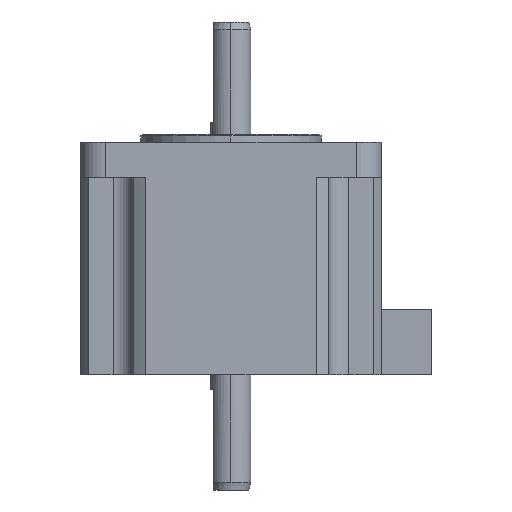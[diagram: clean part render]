
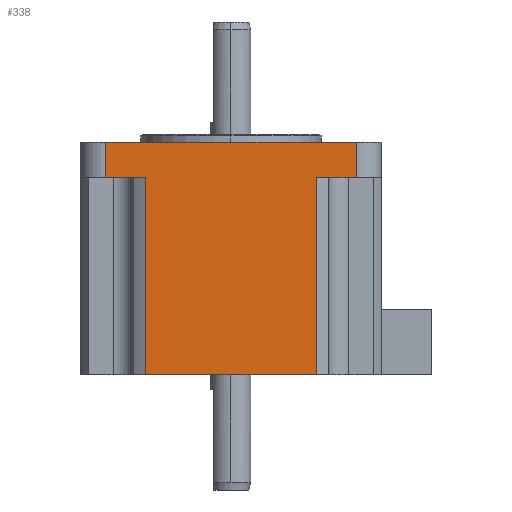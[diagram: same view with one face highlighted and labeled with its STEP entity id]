
A CAD part, left-side view. The second image highlights one B-rep face of the part: STEP entity #338.
In plain terms, the highlighted planar face has unit normal (-1, 0, 0).
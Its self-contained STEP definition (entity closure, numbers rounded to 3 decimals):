
#50 = VERTEX_POINT ( 'NONE', #1374 ) ;
#60 = ORIENTED_EDGE ( 'NONE', *, *, #1735, .F. ) ;
#79 = CARTESIAN_POINT ( 'NONE',  ( -30., 25., -8.6 ) ) ;
#111 = DIRECTION ( 'NONE',  ( 0., 0., 1. ) ) ;
#112 = EDGE_CURVE ( 'NONE', #1707, #50, #2234, .T. ) ;
#144 = CARTESIAN_POINT ( 'NONE',  ( -30., -25., -1.6 ) ) ;
#154 = DIRECTION ( 'NONE',  ( 0., 1., 0. ) ) ;
#159 = CARTESIAN_POINT ( 'NONE',  ( -30., -17.037, -47.9 ) ) ;
#304 = ORIENTED_EDGE ( 'NONE', *, *, #112, .T. ) ;
#311 = CARTESIAN_POINT ( 'NONE',  ( -30., 17.037, -47.9 ) ) ;
#334 = ORIENTED_EDGE ( 'NONE', *, *, #2203, .T. ) ;
#338 = ADVANCED_FACE ( 'NONE', ( #807 ), #947, .F. ) ;
#354 = LINE ( 'NONE', #79, #1560 ) ;
#381 = CARTESIAN_POINT ( 'NONE',  ( -30., -25., -8.6 ) ) ;
#417 = DIRECTION ( 'NONE',  ( 1., 0., 0. ) ) ;
#509 = DIRECTION ( 'NONE',  ( 0., 1., 0. ) ) ;
#532 = EDGE_CURVE ( 'NONE', #893, #958, #1583, .T. ) ;
#548 = DIRECTION ( 'NONE',  ( 0., 1., 0. ) ) ;
#556 = ORIENTED_EDGE ( 'NONE', *, *, #1724, .T. ) ;
#627 = ORIENTED_EDGE ( 'NONE', *, *, #1176, .F. ) ;
#636 = LINE ( 'NONE', #381, #1393 ) ;
#677 = CARTESIAN_POINT ( 'NONE',  ( -30., 30., -8.6 ) ) ;
#765 = CARTESIAN_POINT ( 'NONE',  ( -30., 30., -8.6 ) ) ;
#806 = CARTESIAN_POINT ( 'NONE',  ( -30., 0., -47.9 ) ) ;
#807 = FACE_OUTER_BOUND ( 'NONE', #2000, .T. ) ;
#893 = VERTEX_POINT ( 'NONE', #311 ) ;
#908 = EDGE_CURVE ( 'NONE', #958, #1418, #1028, .T. ) ;
#947 = PLANE ( 'NONE',  #1312 ) ;
#958 = VERTEX_POINT ( 'NONE', #1519 ) ;
#1027 = ORIENTED_EDGE ( 'NONE', *, *, #532, .F. ) ;
#1028 = LINE ( 'NONE', #765, #1161 ) ;
#1067 = LINE ( 'NONE', #806, #1813 ) ;
#1107 = DIRECTION ( 'NONE',  ( 0., 0., 1. ) ) ;
#1112 = VECTOR ( 'NONE', #1420, 1000. ) ;
#1125 = DIRECTION ( 'NONE',  ( 0., 1., 0. ) ) ;
#1161 = VECTOR ( 'NONE', #509, 1000. ) ;
#1176 = EDGE_CURVE ( 'NONE', #1666, #1696, #1608, .T. ) ;
#1312 = AXIS2_PLACEMENT_3D ( 'NONE', #677, #417, #154 ) ;
#1341 = CARTESIAN_POINT ( 'NONE',  ( -30., 17.037, -47.9 ) ) ;
#1363 = CARTESIAN_POINT ( 'NONE',  ( -30., 30., -8.6 ) ) ;
#1374 = CARTESIAN_POINT ( 'NONE',  ( -30., 25., -1.6 ) ) ;
#1393 = VECTOR ( 'NONE', #111, 1000. ) ;
#1418 = VERTEX_POINT ( 'NONE', #1826 ) ;
#1420 = DIRECTION ( 'NONE',  ( 0., 0., 1. ) ) ;
#1423 = CARTESIAN_POINT ( 'NONE',  ( -30., -17.037, -8.6 ) ) ;
#1519 = CARTESIAN_POINT ( 'NONE',  ( -30., 17.037, -8.6 ) ) ;
#1560 = VECTOR ( 'NONE', #2283, 1000. ) ;
#1570 = VECTOR ( 'NONE', #1107, 1000. ) ;
#1583 = LINE ( 'NONE', #1341, #1570 ) ;
#1608 = LINE ( 'NONE', #1363, #1725 ) ;
#1660 = CARTESIAN_POINT ( 'NONE',  ( -30., -17.037, -47.9 ) ) ;
#1666 = VERTEX_POINT ( 'NONE', #1906 ) ;
#1696 = VERTEX_POINT ( 'NONE', #1423 ) ;
#1707 = VERTEX_POINT ( 'NONE', #144 ) ;
#1724 = EDGE_CURVE ( 'NONE', #50, #1418, #354, .T. ) ;
#1725 = VECTOR ( 'NONE', #1125, 1000. ) ;
#1735 = EDGE_CURVE ( 'NONE', #2307, #893, #1067, .T. ) ;
#1747 = DIRECTION ( 'NONE',  ( 0., 1., 0. ) ) ;
#1813 = VECTOR ( 'NONE', #548, 1000. ) ;
#1826 = CARTESIAN_POINT ( 'NONE',  ( -30., 25., -8.6 ) ) ;
#1906 = CARTESIAN_POINT ( 'NONE',  ( -30., -25., -8.6 ) ) ;
#1941 = EDGE_CURVE ( 'NONE', #1666, #1707, #636, .T. ) ;
#1968 = ORIENTED_EDGE ( 'NONE', *, *, #908, .F. ) ;
#1991 = CARTESIAN_POINT ( 'NONE',  ( -30., 30., -1.6 ) ) ;
#2000 = EDGE_LOOP ( 'NONE', ( #627, #2393, #304, #556, #1968, #1027, #60, #334 ) ) ;
#2078 = VECTOR ( 'NONE', #1747, 1000. ) ;
#2151 = LINE ( 'NONE', #1660, #1112 ) ;
#2203 = EDGE_CURVE ( 'NONE', #2307, #1696, #2151, .T. ) ;
#2234 = LINE ( 'NONE', #1991, #2078 ) ;
#2283 = DIRECTION ( 'NONE',  ( 0., 0., -1. ) ) ;
#2307 = VERTEX_POINT ( 'NONE', #159 ) ;
#2393 = ORIENTED_EDGE ( 'NONE', *, *, #1941, .T. ) ;
